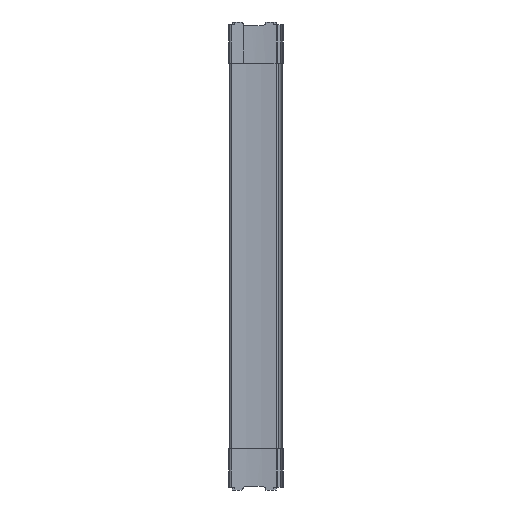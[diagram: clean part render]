
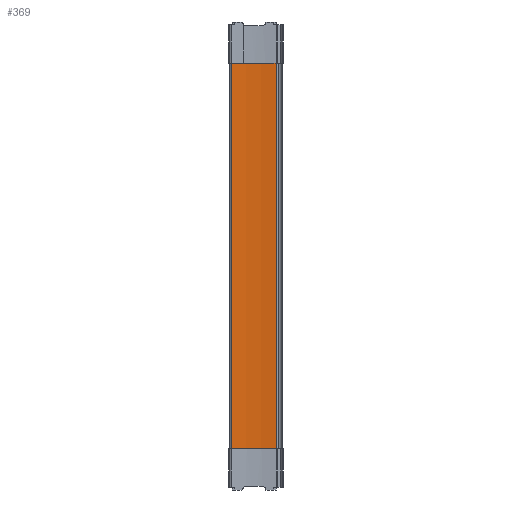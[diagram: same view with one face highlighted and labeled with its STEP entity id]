
A CAD part, left-side view. The second image highlights one B-rep face of the part: STEP entity #369.
In plain terms, the highlighted cylindrical face has radius 250 mm (diameter 500 mm), a partial arc.
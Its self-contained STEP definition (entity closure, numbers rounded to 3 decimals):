
#144 = VECTOR ( 'NONE', #676, 1000. ) ;
#172 = VECTOR ( 'NONE', #2803, 1000. ) ;
#173 = LINE ( 'NONE', #2804, #172 ) ;
#196 = LINE ( 'NONE', #675, #144 ) ;
#208 = CIRCLE ( 'NONE', #515, 250. ) ;
#369 = ADVANCED_FACE ( 'NONE', ( #1799 ), #1796, .F. ) ;
#515 = AXIS2_PLACEMENT_3D ( 'NONE', #2861, #2863, #2858 ) ;
#560 = AXIS2_PLACEMENT_3D ( 'NONE', #828, #838, #839 ) ;
#675 = CARTESIAN_POINT ( 'NONE',  ( -8.643, 8.331, 245.3 ) ) ;
#676 = DIRECTION ( 'NONE',  ( 0., 0., -1. ) ) ;
#828 = CARTESIAN_POINT ( 'NONE',  ( -255.319, 48.963, 239.3 ) ) ;
#838 = DIRECTION ( 'NONE',  ( 0., 0., -1. ) ) ;
#839 = DIRECTION ( 'NONE',  ( 1., 0., 0. ) ) ;
#1145 = CARTESIAN_POINT ( 'NONE',  ( -8.643, 8.331, 239.3 ) ) ;
#1146 = CARTESIAN_POINT ( 'NONE',  ( -8.643, 8.331, -239.3 ) ) ;
#1186 = CARTESIAN_POINT ( 'NONE',  ( -5.747, 63.571, -239.3 ) ) ;
#1188 = CARTESIAN_POINT ( 'NONE',  ( -5.747, 63.571, 239.3 ) ) ;
#1638 = ORIENTED_EDGE ( 'NONE', *, *, #3068, .F. ) ;
#1654 = ORIENTED_EDGE ( 'NONE', *, *, #3021, .F. ) ;
#1667 = ORIENTED_EDGE ( 'NONE', *, *, #3129, .F. ) ;
#1670 = ORIENTED_EDGE ( 'NONE', *, *, #3039, .T. ) ;
#1796 = CYLINDRICAL_SURFACE ( 'NONE', #3252, 250. ) ;
#1799 = FACE_OUTER_BOUND ( 'NONE', #1937, .T. ) ;
#1937 = EDGE_LOOP ( 'NONE', ( #1654, #1638, #1667, #1670 ) ) ;
#2696 = CIRCLE ( 'NONE', #560, 250. ) ;
#2803 = DIRECTION ( 'NONE',  ( 0., 0., -1. ) ) ;
#2804 = CARTESIAN_POINT ( 'NONE',  ( -5.747, 63.571, 245.3 ) ) ;
#2858 = DIRECTION ( 'NONE',  ( -1., 0., 0. ) ) ;
#2861 = CARTESIAN_POINT ( 'NONE',  ( -255.319, 48.963, -239.3 ) ) ;
#2863 = DIRECTION ( 'NONE',  ( 0., 0., 1. ) ) ;
#3021 = EDGE_CURVE ( 'NONE', #4051, #4091, #208, .T. ) ;
#3039 = EDGE_CURVE ( 'NONE', #4093, #4091, #173, .T. ) ;
#3068 = EDGE_CURVE ( 'NONE', #4050, #4051, #196, .T. ) ;
#3129 = EDGE_CURVE ( 'NONE', #4093, #4050, #2696, .T. ) ;
#3252 = AXIS2_PLACEMENT_3D ( 'NONE', #4137, #4138, #4139 ) ;
#4050 = VERTEX_POINT ( 'NONE', #1145 ) ;
#4051 = VERTEX_POINT ( 'NONE', #1146 ) ;
#4091 = VERTEX_POINT ( 'NONE', #1186 ) ;
#4093 = VERTEX_POINT ( 'NONE', #1188 ) ;
#4137 = CARTESIAN_POINT ( 'NONE',  ( -255.319, 48.963, 245.3 ) ) ;
#4138 = DIRECTION ( 'NONE',  ( 0., 0., -1. ) ) ;
#4139 = DIRECTION ( 'NONE',  ( -1., 0., 0. ) ) ;
